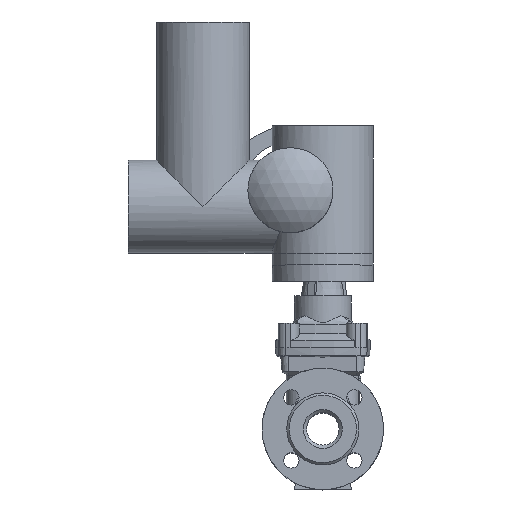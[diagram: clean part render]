
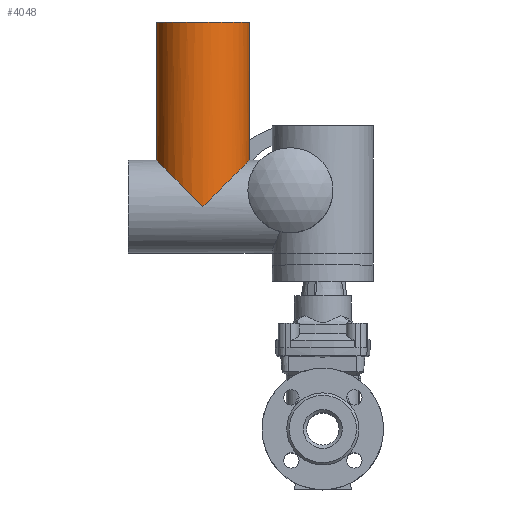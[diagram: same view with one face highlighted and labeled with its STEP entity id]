
A CAD part, top view. The second image highlights one B-rep face of the part: STEP entity #4048.
In plain terms, the highlighted cylindrical face has radius 57.5 mm (diameter 115 mm), a full revolution.
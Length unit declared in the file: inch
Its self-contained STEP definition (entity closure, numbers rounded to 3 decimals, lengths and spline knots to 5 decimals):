
#227 = VERTEX_POINT ( 'NONE', #3616 ) ;
#372 = CARTESIAN_POINT ( 'NONE',  ( -5.82677, 10.80709, 1.67323 ) ) ;
#373 = CARTESIAN_POINT ( 'NONE',  ( -10.35433, 15.33465, 1.67323 ) ) ;
#378 = CARTESIAN_POINT ( 'NONE',  ( -10.35433, 15.33465, -2.85433 ) ) ;
#379 = CARTESIAN_POINT ( 'NONE',  ( -5.82677, 10.80709, -2.85433 ) ) ;
#2222 = CIRCLE ( 'NONE', #5694, 2.26378 ) ;
#2524 = FACE_OUTER_BOUND ( 'NONE', #6350, .T. ) ;
#2529 = FACE_OUTER_BOUND ( 'NONE', #4315, .T. ) ;
#2531 = CYLINDRICAL_SURFACE ( 'NONE', #8594, 2.26378 ) ;
#2921 = EDGE_CURVE ( 'NONE', #4346, #4443, #3289, .T. ) ;
#2931 = EDGE_CURVE ( 'NONE', #4443, #4346, #3283, .T. ) ;
#2954 = EDGE_CURVE ( 'NONE', #227, #227, #2222, .T. ) ;
#3283 =( BOUNDED_CURVE ( )  B_SPLINE_CURVE ( 3, ( #372, #373, #378, #379 ),
 .UNSPECIFIED., .F., .F. ) 
 B_SPLINE_CURVE_WITH_KNOTS ( ( 4, 4 ),
 ( 1.5708, 4.71239 ),
 .UNSPECIFIED. ) 
 CURVE ( )  GEOMETRIC_REPRESENTATION_ITEM ( )  RATIONAL_B_SPLINE_CURVE ( ( 1., 0.333, 0.333, 1. ) ) 
 REPRESENTATION_ITEM ( '' )  );
#3289 =( BOUNDED_CURVE ( )  B_SPLINE_CURVE ( 3, ( #3859, #3858, #3857, #3860 ),
 .UNSPECIFIED., .F., .F. ) 
 B_SPLINE_CURVE_WITH_KNOTS ( ( 4, 4 ),
 ( 4.71239, 7.85398 ),
 .UNSPECIFIED. ) 
 CURVE ( )  GEOMETRIC_REPRESENTATION_ITEM ( )  RATIONAL_B_SPLINE_CURVE ( ( 1., 0.333, 0.333, 1. ) ) 
 REPRESENTATION_ITEM ( '' )  );
#3616 = CARTESIAN_POINT ( 'NONE',  ( -5.82677, 19.78346, -2.85433 ) ) ;
#3857 = CARTESIAN_POINT ( 'NONE',  ( -1.29921, 15.33465, 1.67323 ) ) ;
#3858 = CARTESIAN_POINT ( 'NONE',  ( -1.29921, 15.33465, -2.85433 ) ) ;
#3859 = CARTESIAN_POINT ( 'NONE',  ( -5.82677, 10.80709, -2.85433 ) ) ;
#3860 = CARTESIAN_POINT ( 'NONE',  ( -5.82677, 10.80709, 1.67323 ) ) ;
#4048 = ADVANCED_FACE ( 'NONE', ( #2524, #2529 ), #2531, .T. ) ;
#4230 = ORIENTED_EDGE ( 'NONE', *, *, #2954, .F. ) ;
#4231 = ORIENTED_EDGE ( 'NONE', *, *, #2931, .F. ) ;
#4232 = ORIENTED_EDGE ( 'NONE', *, *, #2921, .F. ) ;
#4315 = EDGE_LOOP ( 'NONE', ( #4231, #4232 ) ) ;
#4346 = VERTEX_POINT ( 'NONE', #5032 ) ;
#4443 = VERTEX_POINT ( 'NONE', #5129 ) ;
#4742 = CARTESIAN_POINT ( 'NONE',  ( -5.82677, 19.78346, -0.59055 ) ) ;
#4743 = DIRECTION ( 'NONE',  ( 0., 1., 0. ) ) ;
#4744 = DIRECTION ( 'NONE',  ( 0., 0., -1. ) ) ;
#5032 = CARTESIAN_POINT ( 'NONE',  ( -5.82677, 10.80709, -2.85433 ) ) ;
#5129 = CARTESIAN_POINT ( 'NONE',  ( -5.82677, 10.80709, 1.67323 ) ) ;
#5694 = AXIS2_PLACEMENT_3D ( 'NONE', #4742, #4743, #4744 ) ;
#5962 = DIRECTION ( 'NONE',  ( 0., 0., -1. ) ) ;
#5968 = DIRECTION ( 'NONE',  ( 0., 1., 0. ) ) ;
#5971 = CARTESIAN_POINT ( 'NONE',  ( -5.82677, 10.80709, -0.59055 ) ) ;
#6350 = EDGE_LOOP ( 'NONE', ( #4230 ) ) ;
#8594 = AXIS2_PLACEMENT_3D ( 'NONE', #5971, #5968, #5962 ) ;
